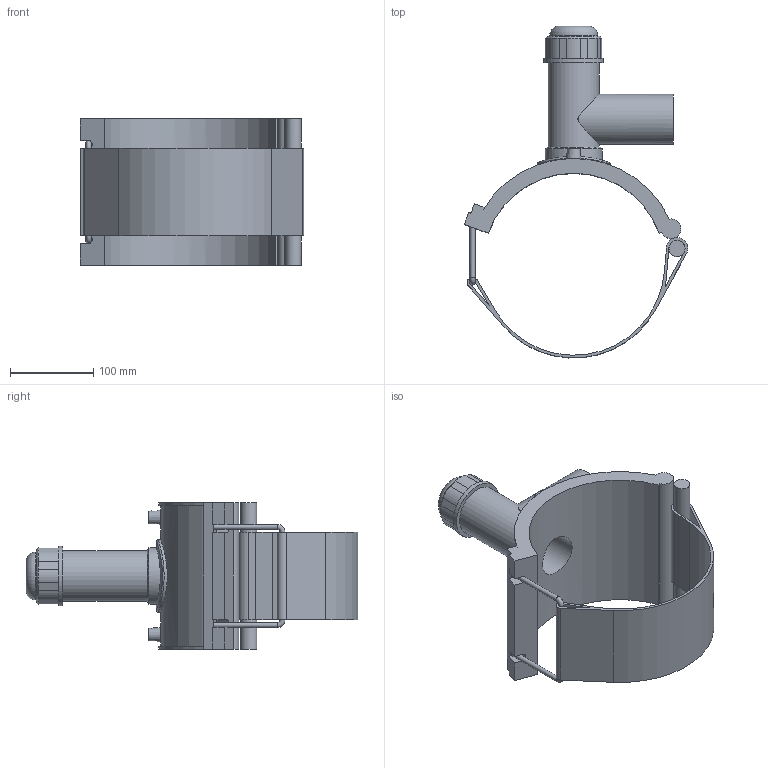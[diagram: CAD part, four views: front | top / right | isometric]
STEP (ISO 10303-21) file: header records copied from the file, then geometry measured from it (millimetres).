
FILE_DESCRIPTION(/* description */ ('PLASSON TAPPING SADDLE 8''''IPS x 2''''IPS'),/* implementation_level */ '2;1');
FILE_NAME(/* name */ 'C:\Dropbox\KIMPROJECTS-Inventor 2019\99-16-3568-Processing Inch\ASTM ElectroFusion 2021\5963B\5963BB03080020.ipt.stp',/* time_stamp */ '2021-08-30T09:55:51+03:00',/* author */ ('KIM'),/* organization */ (''),/* preprocessor_version */ 'ST-DEVELOPER v17.2',/* originating_system */ 'Autodesk Inventor 2019',/* authorisation */ '');
FILE_SCHEMA (('AUTOMOTIVE_DESIGN { 1 0 10303 214 3 1 1 }'));
Length unit declared in the file: millimetre
Products named in the file (1): 5963BB03080020
Bounding box: 268.63 x 398.85 x 176.02 mm (x, y, z)
Volume: 1475362.6 mm3; surface area: 335471.2 mm2
Topology: 1 solids, 1 shells, 122 faces, 315 edges, 206 vertices
Faces by surface type: plane 69, cylinder 38, cone 11, torus 3, bspline 1
Full cylindrical faces by diameter (mm): 4 x2, 6.124 x2, 10 x2, 19.347 x1, 48.08 x1, 50.214 x1, 57.387 x1, 60.1 x1, 60.974 x1, 68.147 x1, 71.734 x1, 87.48 x1
Entity records: 4366 total; most frequent: CARTESIAN_POINT 1242, DIRECTION 658, ORIENTED_EDGE 632, EDGE_CURVE 316, AXIS2_PLACEMENT_3D 239, VERTEX_POINT 206, LINE 180, VECTOR 180
